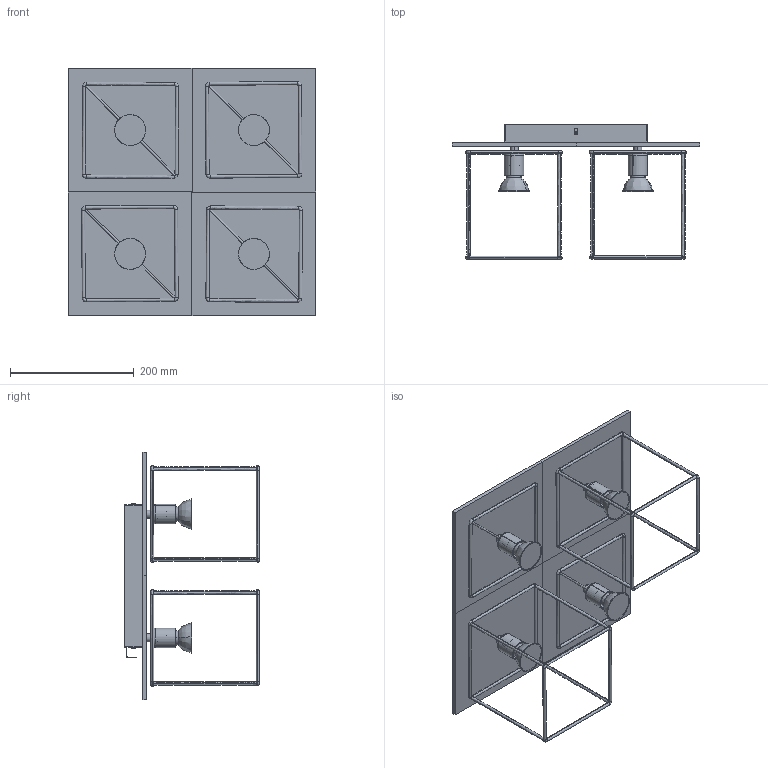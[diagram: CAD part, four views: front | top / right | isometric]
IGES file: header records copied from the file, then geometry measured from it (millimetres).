
Start section: SolidWorks IGES file using analytic representation for surfaces
Global section: file name: E:\3D lampy\Coba\Coba_9723.IGS; native system: SolidWorks 2016; preprocessor: SolidWorks 2016; author: Asia; date: 170622.121817; units: millimetre
Bounding box: 400 x 217 x 400 mm (x, y, z)
Surface area: 671988.7 mm2 (no closed solid volume)
Topology: 0 solids, 0 shells, 805 faces, 14197 edges, 14137 vertices
Faces by surface type: revolution 414, bspline 391
